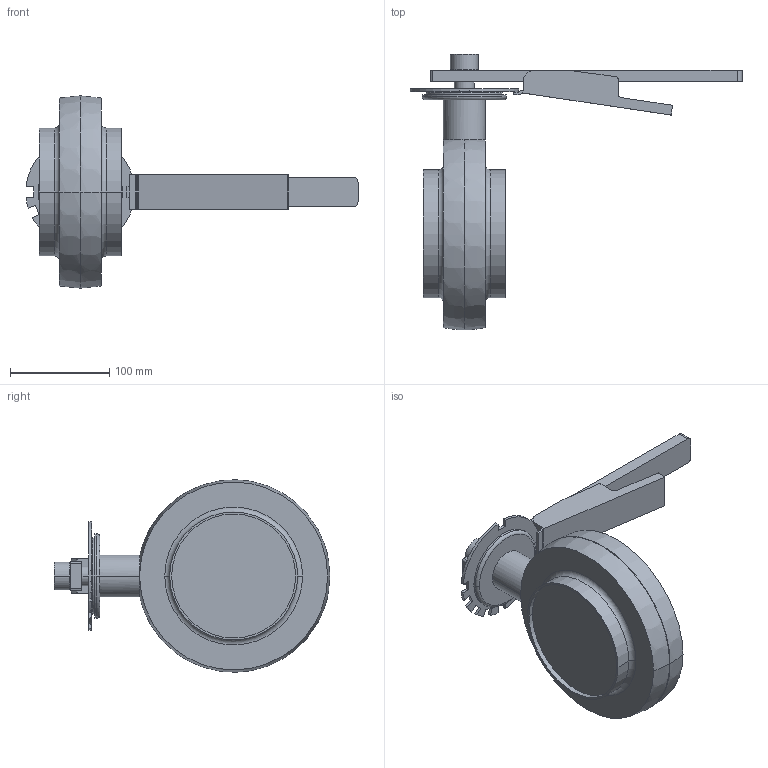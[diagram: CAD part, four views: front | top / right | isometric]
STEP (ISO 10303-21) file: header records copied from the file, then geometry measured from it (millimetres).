
FILE_DESCRIPTION(('OneSpaceDesigner STEP Export'),'2;1');
FILE_NAME('SV1-125-H-12S.stp','2007-04-19T15:00:53',(''),(''),'OneSpace Designer STEP processor for AP214 (Solid Model)','OneSpace Modeling 15.00 06-Feb-2007 (C) CoCreate Software GmbH','');
FILE_SCHEMA(('AUTOMOTIVE_DESIGN { 1 0 10303 214 1 1 1 1 }'));
Length unit declared in the file: millimetre
Products named in the file (2): SV1-125-H-12S; SV1-125-H-12S-vereint
Assembly tree (1 placements, depth 2):
  SV1-125-H-12S-vereint
    SV1-125-H-12S
Bounding box: 334.76 x 278 x 193.95 mm (x, y, z)
Volume: 1974635.4 mm3; surface area: 166327.8 mm2
Topology: 1 solids, 1 shells, 120 faces, 311 edges, 203 vertices
Faces by surface type: plane 60, cylinder 42, torus 14, cone 4
Entity records: 4063 total; most frequent: CARTESIAN_POINT 1240, ORIENTED_EDGE 622, DIRECTION 534, EDGE_CURVE 311, VERTEX_POINT 203, VECTOR 180, LINE 180, AXIS2_PLACEMENT_3D 177
